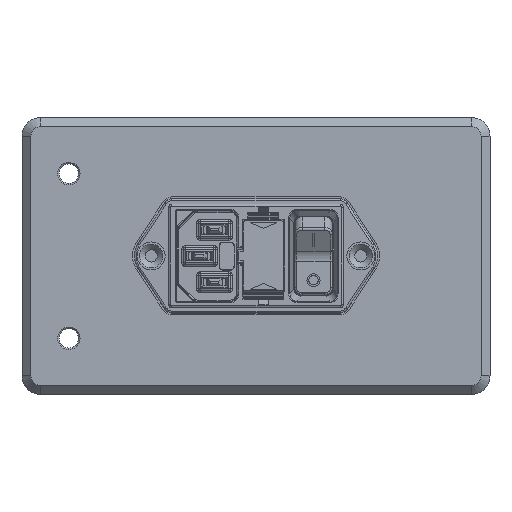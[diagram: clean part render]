
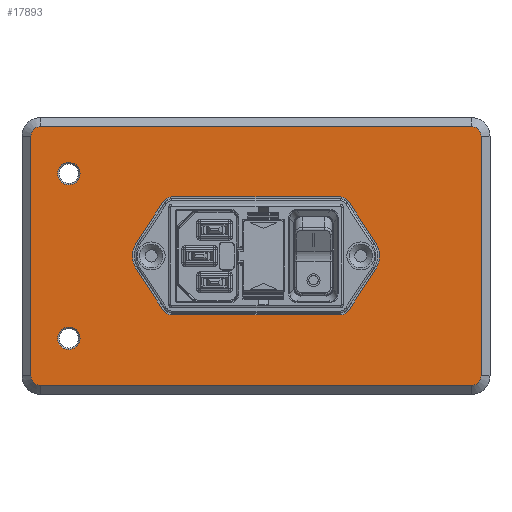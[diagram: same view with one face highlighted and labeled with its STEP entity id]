
A CAD part, top view. The second image highlights one B-rep face of the part: STEP entity #17893.
In plain terms, the highlighted planar face has unit normal (0, 0, 1).
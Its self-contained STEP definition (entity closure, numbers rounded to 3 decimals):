
#352=FACE_BOUND('',#6799,.T.);
#353=FACE_BOUND('',#6800,.T.);
#354=FACE_BOUND('',#6801,.T.);
#355=FACE_BOUND('',#6802,.T.);
#356=FACE_BOUND('',#6803,.T.);
#859=PLANE('',#19411);
#2499=LINE('',#33823,#4361);
#2504=LINE('',#33837,#4366);
#2508=LINE('',#33849,#4370);
#2512=LINE('',#33861,#4374);
#2521=LINE('',#33887,#4383);
#2522=LINE('',#33891,#4384);
#2523=LINE('',#33895,#4385);
#2524=LINE('',#33899,#4386);
#4361=VECTOR('',#23890,10.);
#4366=VECTOR('',#23903,10.);
#4370=VECTOR('',#23915,10.);
#4374=VECTOR('',#23927,10.);
#4383=VECTOR('',#23956,10.);
#4384=VECTOR('',#23959,10.);
#4385=VECTOR('',#23962,10.);
#4386=VECTOR('',#23965,10.);
#5714=FACE_OUTER_BOUND('',#6798,.T.);
#6798=EDGE_LOOP('',(#16150,#16151,#16152,#16153,#16154,#16155,#16156,#16157));
#6799=EDGE_LOOP('',(#16158,#16159,#16160,#16161,#16162,#16163,#16164,#16165));
#6800=EDGE_LOOP('',(#16166));
#6801=EDGE_LOOP('',(#16167));
#6802=EDGE_LOOP('',(#16168));
#6803=EDGE_LOOP('',(#16169));
#7483=CIRCLE('',#19391,2.6);
#7485=CIRCLE('',#19395,2.6);
#7487=CIRCLE('',#19399,2.6);
#7489=CIRCLE('',#19403,2.6);
#7493=CIRCLE('',#19412,5.15);
#7494=CIRCLE('',#19413,5.15);
#7495=CIRCLE('',#19414,5.15);
#7496=CIRCLE('',#19415,5.15);
#7497=CIRCLE('',#19416,3.);
#7498=CIRCLE('',#19417,2.3);
#7499=CIRCLE('',#19418,2.3);
#7500=CIRCLE('',#19419,3.);
#8994=VERTEX_POINT('',#33820);
#8995=VERTEX_POINT('',#33822);
#8998=VERTEX_POINT('',#33829);
#9000=VERTEX_POINT('',#33835);
#9002=VERTEX_POINT('',#33841);
#9004=VERTEX_POINT('',#33847);
#9006=VERTEX_POINT('',#33853);
#9008=VERTEX_POINT('',#33859);
#9014=VERTEX_POINT('',#33885);
#9015=VERTEX_POINT('',#33886);
#9016=VERTEX_POINT('',#33888);
#9017=VERTEX_POINT('',#33890);
#9018=VERTEX_POINT('',#33892);
#9019=VERTEX_POINT('',#33894);
#9020=VERTEX_POINT('',#33896);
#9021=VERTEX_POINT('',#33898);
#9022=VERTEX_POINT('',#33901);
#9023=VERTEX_POINT('',#33903);
#9024=VERTEX_POINT('',#33905);
#9025=VERTEX_POINT('',#33907);
#11387=EDGE_CURVE('',#8994,#8995,#2499,.T.);
#11391=EDGE_CURVE('',#8998,#8994,#7483,.T.);
#11394=EDGE_CURVE('',#9000,#8998,#2504,.T.);
#11397=EDGE_CURVE('',#9002,#9000,#7485,.T.);
#11400=EDGE_CURVE('',#9004,#9002,#2508,.T.);
#11403=EDGE_CURVE('',#9006,#9004,#7487,.T.);
#11406=EDGE_CURVE('',#9008,#9006,#2512,.T.);
#11408=EDGE_CURVE('',#8995,#9008,#7489,.T.);
#11419=EDGE_CURVE('',#9014,#9015,#2521,.T.);
#11420=EDGE_CURVE('',#9016,#9014,#7493,.T.);
#11421=EDGE_CURVE('',#9017,#9016,#2522,.T.);
#11422=EDGE_CURVE('',#9018,#9017,#7494,.T.);
#11423=EDGE_CURVE('',#9019,#9018,#2523,.T.);
#11424=EDGE_CURVE('',#9020,#9019,#7495,.T.);
#11425=EDGE_CURVE('',#9021,#9020,#2524,.T.);
#11426=EDGE_CURVE('',#9015,#9021,#7496,.T.);
#11427=EDGE_CURVE('',#9022,#9022,#7497,.T.);
#11428=EDGE_CURVE('',#9023,#9023,#7498,.T.);
#11429=EDGE_CURVE('',#9024,#9024,#7499,.T.);
#11430=EDGE_CURVE('',#9025,#9025,#7500,.T.);
#16150=ORIENTED_EDGE('',*,*,#11387,.F.);
#16151=ORIENTED_EDGE('',*,*,#11391,.F.);
#16152=ORIENTED_EDGE('',*,*,#11394,.F.);
#16153=ORIENTED_EDGE('',*,*,#11397,.F.);
#16154=ORIENTED_EDGE('',*,*,#11400,.F.);
#16155=ORIENTED_EDGE('',*,*,#11403,.F.);
#16156=ORIENTED_EDGE('',*,*,#11406,.F.);
#16157=ORIENTED_EDGE('',*,*,#11408,.F.);
#16158=ORIENTED_EDGE('',*,*,#11419,.F.);
#16159=ORIENTED_EDGE('',*,*,#11420,.F.);
#16160=ORIENTED_EDGE('',*,*,#11421,.F.);
#16161=ORIENTED_EDGE('',*,*,#11422,.F.);
#16162=ORIENTED_EDGE('',*,*,#11423,.F.);
#16163=ORIENTED_EDGE('',*,*,#11424,.F.);
#16164=ORIENTED_EDGE('',*,*,#11425,.F.);
#16165=ORIENTED_EDGE('',*,*,#11426,.F.);
#16166=ORIENTED_EDGE('',*,*,#11427,.F.);
#16167=ORIENTED_EDGE('',*,*,#11428,.T.);
#16168=ORIENTED_EDGE('',*,*,#11429,.T.);
#16169=ORIENTED_EDGE('',*,*,#11430,.F.);
#17893=ADVANCED_FACE('',(#5714,#352,#353,#354,#355,#356),#859,.T.);
#19391=AXIS2_PLACEMENT_3D('',#33831,#23896,#23897);
#19395=AXIS2_PLACEMENT_3D('',#33843,#23908,#23909);
#19399=AXIS2_PLACEMENT_3D('',#33855,#23920,#23921);
#19403=AXIS2_PLACEMENT_3D('',#33864,#23931,#23932);
#19411=AXIS2_PLACEMENT_3D('',#33884,#23954,#23955);
#19412=AXIS2_PLACEMENT_3D('',#33889,#23957,#23958);
#19413=AXIS2_PLACEMENT_3D('',#33893,#23960,#23961);
#19414=AXIS2_PLACEMENT_3D('',#33897,#23963,#23964);
#19415=AXIS2_PLACEMENT_3D('',#33900,#23966,#23967);
#19416=AXIS2_PLACEMENT_3D('',#33902,#23968,#23969);
#19417=AXIS2_PLACEMENT_3D('',#33904,#23970,#23971);
#19418=AXIS2_PLACEMENT_3D('',#33906,#23972,#23973);
#19419=AXIS2_PLACEMENT_3D('',#33908,#23974,#23975);
#23890=DIRECTION('',(-1.,0.,0.));
#23896=DIRECTION('center_axis',(0.,0.,-1.));
#23897=DIRECTION('ref_axis',(0.,-1.,0.));
#23903=DIRECTION('',(0.,-1.,0.));
#23908=DIRECTION('center_axis',(0.,0.,-1.));
#23909=DIRECTION('ref_axis',(1.,0.,0.));
#23915=DIRECTION('',(1.,0.,0.));
#23920=DIRECTION('center_axis',(0.,0.,-1.));
#23921=DIRECTION('ref_axis',(0.,1.,0.));
#23927=DIRECTION('',(0.,1.,0.));
#23931=DIRECTION('center_axis',(0.,0.,-1.));
#23932=DIRECTION('ref_axis',(-1.,0.,0.));
#23954=DIRECTION('center_axis',(0.,0.,1.));
#23955=DIRECTION('ref_axis',(1.,0.,0.));
#23956=DIRECTION('',(-1.,0.,0.));
#23957=DIRECTION('center_axis',(0.,0.,1.));
#23958=DIRECTION('ref_axis',(0.,1.,0.));
#23959=DIRECTION('',(0.,1.,0.));
#23960=DIRECTION('center_axis',(0.,0.,1.));
#23961=DIRECTION('ref_axis',(1.,0.,0.));
#23962=DIRECTION('',(1.,0.,0.));
#23963=DIRECTION('center_axis',(0.,0.,1.));
#23964=DIRECTION('ref_axis',(0.,-1.,0.));
#23965=DIRECTION('',(0.,-1.,0.));
#23966=DIRECTION('center_axis',(0.,0.,1.));
#23967=DIRECTION('ref_axis',(-1.,0.,0.));
#23968=DIRECTION('center_axis',(0.,0.,1.));
#23969=DIRECTION('ref_axis',(1.,0.,0.));
#23970=DIRECTION('center_axis',(0.,0.,-1.));
#23971=DIRECTION('ref_axis',(1.,0.,0.));
#23972=DIRECTION('center_axis',(0.,0.,-1.));
#23973=DIRECTION('ref_axis',(1.,0.,0.));
#23974=DIRECTION('center_axis',(0.,0.,1.));
#23975=DIRECTION('ref_axis',(1.,0.,0.));
#33820=CARTESIAN_POINT('',(120.,2.4,8.));
#33822=CARTESIAN_POINT('',(5.,2.4,8.));
#33823=CARTESIAN_POINT('',(33.75,2.4,8.));
#33829=CARTESIAN_POINT('',(122.6,5.,8.));
#33831=CARTESIAN_POINT('Origin',(120.,5.,8.));
#33835=CARTESIAN_POINT('',(122.6,69.,8.));
#33837=CARTESIAN_POINT('',(122.6,21.,8.));
#33841=CARTESIAN_POINT('',(120.,71.6,8.));
#33843=CARTESIAN_POINT('Origin',(120.,69.,8.));
#33847=CARTESIAN_POINT('',(5.,71.6,8.));
#33849=CARTESIAN_POINT('',(91.25,71.6,8.));
#33853=CARTESIAN_POINT('',(2.4,69.,8.));
#33855=CARTESIAN_POINT('Origin',(5.,69.,8.));
#33859=CARTESIAN_POINT('',(2.4,5.,8.));
#33861=CARTESIAN_POINT('',(2.4,53.,8.));
#33864=CARTESIAN_POINT('Origin',(5.,5.,8.));
#33884=CARTESIAN_POINT('Origin',(62.5,37.,8.));
#33885=CARTESIAN_POINT('',(82.35,52.25,8.));
#33886=CARTESIAN_POINT('',(42.65,52.25,8.));
#33887=CARTESIAN_POINT('',(72.425,52.25,8.));
#33888=CARTESIAN_POINT('',(87.5,47.1,8.));
#33889=CARTESIAN_POINT('Origin',(82.35,47.1,8.));
#33890=CARTESIAN_POINT('',(87.5,26.9,8.));
#33891=CARTESIAN_POINT('',(87.5,31.95,8.));
#33892=CARTESIAN_POINT('',(82.35,21.75,8.));
#33893=CARTESIAN_POINT('Origin',(82.35,26.9,8.));
#33894=CARTESIAN_POINT('',(42.65,21.75,8.));
#33895=CARTESIAN_POINT('',(52.575,21.75,8.));
#33896=CARTESIAN_POINT('',(37.5,26.9,8.));
#33897=CARTESIAN_POINT('Origin',(42.65,26.9,8.));
#33898=CARTESIAN_POINT('',(37.5,47.1,8.));
#33899=CARTESIAN_POINT('',(37.5,42.05,8.));
#33900=CARTESIAN_POINT('Origin',(42.65,47.1,8.));
#33901=CARTESIAN_POINT('',(9.5,59.,8.));
#33902=CARTESIAN_POINT('Origin',(12.5,59.,8.));
#33903=CARTESIAN_POINT('',(88.2,37.,8.));
#33904=CARTESIAN_POINT('Origin',(90.5,37.,8.));
#33905=CARTESIAN_POINT('',(32.2,37.,8.));
#33906=CARTESIAN_POINT('Origin',(34.5,37.,8.));
#33907=CARTESIAN_POINT('',(9.5,15.,8.));
#33908=CARTESIAN_POINT('Origin',(12.5,15.,8.));
